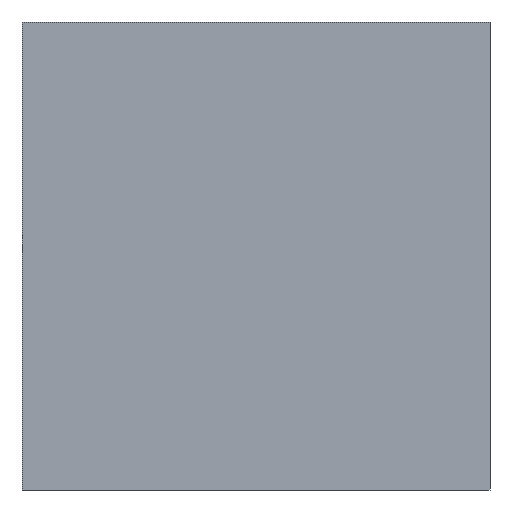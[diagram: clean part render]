
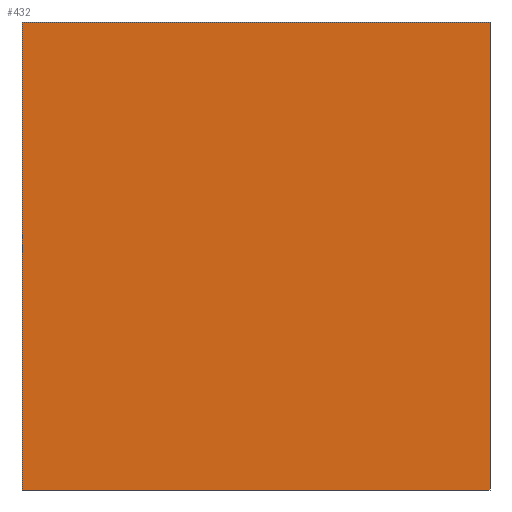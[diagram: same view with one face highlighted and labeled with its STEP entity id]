
A CAD part, left-side view. The second image highlights one B-rep face of the part: STEP entity #432.
In plain terms, the highlighted planar face has unit normal (-1, 0, 0).
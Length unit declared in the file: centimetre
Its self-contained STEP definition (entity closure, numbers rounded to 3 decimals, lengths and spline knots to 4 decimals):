
#11 = DIRECTION ( 'NONE',  ( 0., 0., -1. ) ) ;
#41 = CARTESIAN_POINT ( 'NONE',  ( 0., 0., 1000. ) ) ;
#58 = CARTESIAN_POINT ( 'NONE',  ( 0., 1000., 0. ) ) ;
#64 = VERTEX_POINT ( 'NONE', #222 ) ;
#69 = VECTOR ( 'NONE', #178, 100. ) ;
#76 = LINE ( 'NONE', #401, #513 ) ;
#77 = CARTESIAN_POINT ( 'NONE',  ( 0., 1000., 1000. ) ) ;
#84 = LINE ( 'NONE', #77, #69 ) ;
#103 = VECTOR ( 'NONE', #441, 100. ) ;
#108 = DIRECTION ( 'NONE',  ( 0., -1., 0. ) ) ;
#115 = CARTESIAN_POINT ( 'NONE',  ( 0., 0., 1000. ) ) ;
#121 = DIRECTION ( 'NONE',  ( 0., 0., -1. ) ) ;
#132 = VERTEX_POINT ( 'NONE', #200 ) ;
#143 = PLANE ( 'NONE',  #343 ) ;
#163 = CARTESIAN_POINT ( 'NONE',  ( 0., 1000., 0. ) ) ;
#178 = DIRECTION ( 'NONE',  ( 0., 0., -1. ) ) ;
#199 = ORIENTED_EDGE ( 'NONE', *, *, #532, .F. ) ;
#200 = CARTESIAN_POINT ( 'NONE',  ( 0., 0., 0. ) ) ;
#209 = ORIENTED_EDGE ( 'NONE', *, *, #488, .F. ) ;
#222 = CARTESIAN_POINT ( 'NONE',  ( 0., 1000., 1000. ) ) ;
#236 = EDGE_LOOP ( 'NONE', ( #301, #209, #199, #459 ) ) ;
#242 = VERTEX_POINT ( 'NONE', #163 ) ;
#243 = VECTOR ( 'NONE', #121, 100. ) ;
#244 = LINE ( 'NONE', #41, #243 ) ;
#273 = LINE ( 'NONE', #58, #103 ) ;
#301 = ORIENTED_EDGE ( 'NONE', *, *, #436, .T. ) ;
#316 = CARTESIAN_POINT ( 'NONE',  ( 0., 1000., 1000. ) ) ;
#343 = AXIS2_PLACEMENT_3D ( 'NONE', #316, #466, #11 ) ;
#371 = EDGE_CURVE ( 'NONE', #64, #242, #84, .T. ) ;
#401 = CARTESIAN_POINT ( 'NONE',  ( 0., 1000., 1000. ) ) ;
#432 = ADVANCED_FACE ( 'NONE', ( #524 ), #143, .F. ) ;
#436 = EDGE_CURVE ( 'NONE', #242, #132, #273, .T. ) ;
#441 = DIRECTION ( 'NONE',  ( 0., -1., 0. ) ) ;
#459 = ORIENTED_EDGE ( 'NONE', *, *, #371, .T. ) ;
#466 = DIRECTION ( 'NONE',  ( 1., 0., 0. ) ) ;
#488 = EDGE_CURVE ( 'NONE', #509, #132, #244, .T. ) ;
#509 = VERTEX_POINT ( 'NONE', #115 ) ;
#513 = VECTOR ( 'NONE', #108, 100. ) ;
#524 = FACE_OUTER_BOUND ( 'NONE', #236, .T. ) ;
#532 = EDGE_CURVE ( 'NONE', #64, #509, #76, .T. ) ;
